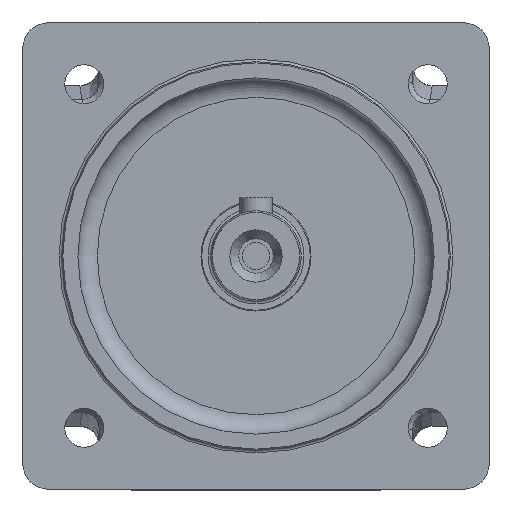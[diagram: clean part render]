
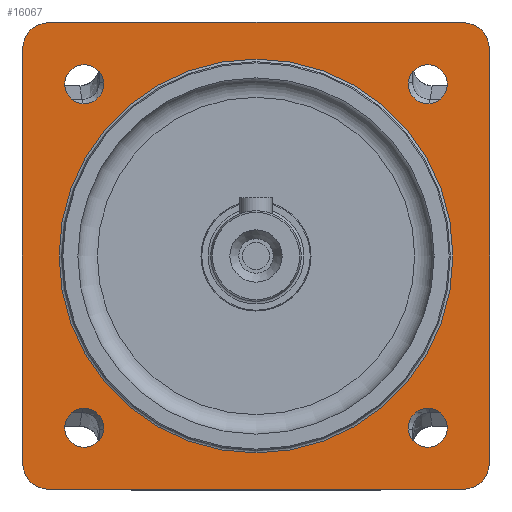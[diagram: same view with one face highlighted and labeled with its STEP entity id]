
A CAD part, left-side view. The second image highlights one B-rep face of the part: STEP entity #16067.
In plain terms, the highlighted planar face has unit normal (-1, 0, 0).
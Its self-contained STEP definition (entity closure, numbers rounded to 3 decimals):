
#637=FACE_BOUND('',#5252,.T.);
#638=FACE_BOUND('',#5253,.T.);
#639=FACE_BOUND('',#5254,.T.);
#640=FACE_BOUND('',#5255,.T.);
#641=FACE_BOUND('',#5256,.T.);
#944=PLANE('',#17519);
#1892=LINE('',#27973,#3046);
#1893=LINE('',#27977,#3047);
#1894=LINE('',#27981,#3048);
#1895=LINE('',#27984,#3049);
#3046=VECTOR('',#21026,10.);
#3047=VECTOR('',#21029,10.);
#3048=VECTOR('',#21032,10.);
#3049=VECTOR('',#21035,10.);
#4255=FACE_OUTER_BOUND('',#5251,.T.);
#5251=EDGE_LOOP('',(#12960,#12961,#12962,#12963,#12964,#12965,#12966,#12967));
#5252=EDGE_LOOP('',(#12968));
#5253=EDGE_LOOP('',(#12969));
#5254=EDGE_LOOP('',(#12970));
#5255=EDGE_LOOP('',(#12971));
#5256=EDGE_LOOP('',(#12972));
#6134=CIRCLE('',#17518,30.4);
#6135=CIRCLE('',#17520,4.);
#6136=CIRCLE('',#17521,4.);
#6137=CIRCLE('',#17522,4.);
#6138=CIRCLE('',#17523,4.);
#6139=CIRCLE('',#17524,3.);
#6140=CIRCLE('',#17525,3.);
#6141=CIRCLE('',#17526,3.);
#6142=CIRCLE('',#17527,3.);
#7367=VERTEX_POINT('',#27965);
#7368=VERTEX_POINT('',#27969);
#7369=VERTEX_POINT('',#27970);
#7370=VERTEX_POINT('',#27972);
#7371=VERTEX_POINT('',#27974);
#7372=VERTEX_POINT('',#27976);
#7373=VERTEX_POINT('',#27978);
#7374=VERTEX_POINT('',#27980);
#7375=VERTEX_POINT('',#27982);
#7376=VERTEX_POINT('',#27985);
#7377=VERTEX_POINT('',#27987);
#7378=VERTEX_POINT('',#27989);
#7379=VERTEX_POINT('',#27991);
#9312=EDGE_CURVE('',#7367,#7367,#6134,.T.);
#9313=EDGE_CURVE('',#7368,#7369,#6135,.T.);
#9314=EDGE_CURVE('',#7370,#7368,#1892,.T.);
#9315=EDGE_CURVE('',#7371,#7370,#6136,.T.);
#9316=EDGE_CURVE('',#7372,#7371,#1893,.T.);
#9317=EDGE_CURVE('',#7373,#7372,#6137,.T.);
#9318=EDGE_CURVE('',#7374,#7373,#1894,.T.);
#9319=EDGE_CURVE('',#7375,#7374,#6138,.T.);
#9320=EDGE_CURVE('',#7369,#7375,#1895,.T.);
#9321=EDGE_CURVE('',#7376,#7376,#6139,.T.);
#9322=EDGE_CURVE('',#7377,#7377,#6140,.T.);
#9323=EDGE_CURVE('',#7378,#7378,#6141,.T.);
#9324=EDGE_CURVE('',#7379,#7379,#6142,.T.);
#12960=ORIENTED_EDGE('',*,*,#9313,.F.);
#12961=ORIENTED_EDGE('',*,*,#9314,.F.);
#12962=ORIENTED_EDGE('',*,*,#9315,.F.);
#12963=ORIENTED_EDGE('',*,*,#9316,.F.);
#12964=ORIENTED_EDGE('',*,*,#9317,.F.);
#12965=ORIENTED_EDGE('',*,*,#9318,.F.);
#12966=ORIENTED_EDGE('',*,*,#9319,.F.);
#12967=ORIENTED_EDGE('',*,*,#9320,.F.);
#12968=ORIENTED_EDGE('',*,*,#9321,.T.);
#12969=ORIENTED_EDGE('',*,*,#9322,.T.);
#12970=ORIENTED_EDGE('',*,*,#9323,.T.);
#12971=ORIENTED_EDGE('',*,*,#9324,.T.);
#12972=ORIENTED_EDGE('',*,*,#9312,.F.);
#16067=ADVANCED_FACE('',(#4255,#637,#638,#639,#640,#641),#944,.F.);
#17518=AXIS2_PLACEMENT_3D('',#27967,#21020,#21021);
#17519=AXIS2_PLACEMENT_3D('',#27968,#21022,#21023);
#17520=AXIS2_PLACEMENT_3D('',#27971,#21024,#21025);
#17521=AXIS2_PLACEMENT_3D('',#27975,#21027,#21028);
#17522=AXIS2_PLACEMENT_3D('',#27979,#21030,#21031);
#17523=AXIS2_PLACEMENT_3D('',#27983,#21033,#21034);
#17524=AXIS2_PLACEMENT_3D('',#27986,#21036,#21037);
#17525=AXIS2_PLACEMENT_3D('',#27988,#21038,#21039);
#17526=AXIS2_PLACEMENT_3D('',#27990,#21040,#21041);
#17527=AXIS2_PLACEMENT_3D('',#27992,#21042,#21043);
#21020=DIRECTION('center_axis',(-1.,0.,0.));
#21021=DIRECTION('ref_axis',(0.,1.,0.));
#21022=DIRECTION('center_axis',(1.,0.,0.));
#21023=DIRECTION('ref_axis',(0.,1.,0.));
#21024=DIRECTION('center_axis',(1.,0.,0.));
#21025=DIRECTION('ref_axis',(0.,-0.707,0.707));
#21026=DIRECTION('',(0.,-1.,0.));
#21027=DIRECTION('center_axis',(1.,0.,0.));
#21028=DIRECTION('ref_axis',(0.,0.707,0.707));
#21029=DIRECTION('',(0.,0.,1.));
#21030=DIRECTION('center_axis',(1.,0.,0.));
#21031=DIRECTION('ref_axis',(0.,0.707,-0.707));
#21032=DIRECTION('',(0.,1.,0.));
#21033=DIRECTION('center_axis',(1.,0.,0.));
#21034=DIRECTION('ref_axis',(0.,-0.707,-0.707));
#21035=DIRECTION('',(0.,0.,-1.));
#21036=DIRECTION('center_axis',(1.,0.,0.));
#21037=DIRECTION('ref_axis',(0.,1.,0.));
#21038=DIRECTION('center_axis',(1.,0.,0.));
#21039=DIRECTION('ref_axis',(0.,1.,0.));
#21040=DIRECTION('center_axis',(1.,0.,0.));
#21041=DIRECTION('ref_axis',(0.,1.,0.));
#21042=DIRECTION('center_axis',(1.,0.,0.));
#21043=DIRECTION('ref_axis',(0.,1.,0.));
#27965=CARTESIAN_POINT('',(0.,-30.4,0.));
#27967=CARTESIAN_POINT('Origin',(0.,0.,
0.));
#27968=CARTESIAN_POINT('Origin',(0.,0.,
0.));
#27969=CARTESIAN_POINT('',(0.,-32.,36.));
#27970=CARTESIAN_POINT('',(0.,-36.,32.));
#27971=CARTESIAN_POINT('Origin',(0.,-32.,32.));
#27972=CARTESIAN_POINT('',(0.,32.,36.));
#27973=CARTESIAN_POINT('',(0.,-36.,36.));
#27974=CARTESIAN_POINT('',(0.,36.,32.));
#27975=CARTESIAN_POINT('Origin',(0.,32.,32.));
#27976=CARTESIAN_POINT('',(0.,36.,-32.));
#27977=CARTESIAN_POINT('',(0.,36.,36.));
#27978=CARTESIAN_POINT('',(0.,32.,-36.));
#27979=CARTESIAN_POINT('Origin',(0.,32.,-32.));
#27980=CARTESIAN_POINT('',(0.,-32.,-36.));
#27981=CARTESIAN_POINT('',(0.,36.,-36.));
#27982=CARTESIAN_POINT('',(0.,-36.,-32.));
#27983=CARTESIAN_POINT('Origin',(0.,-32.,-32.));
#27984=CARTESIAN_POINT('',(0.,-36.,-36.));
#27985=CARTESIAN_POINT('',(0.,23.517,26.517));
#27986=CARTESIAN_POINT('Origin',(0.,26.517,
26.517));
#27987=CARTESIAN_POINT('',(0.,23.517,-26.517));
#27988=CARTESIAN_POINT('Origin',(0.,26.517,
-26.517));
#27989=CARTESIAN_POINT('',(0.,-29.517,-26.517));
#27990=CARTESIAN_POINT('Origin',(0.,-26.517,
-26.517));
#27991=CARTESIAN_POINT('',(0.,-29.517,26.517));
#27992=CARTESIAN_POINT('Origin',(0.,-26.517,
26.517));
